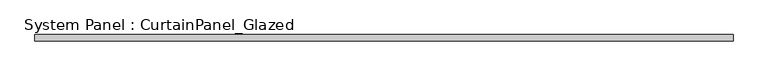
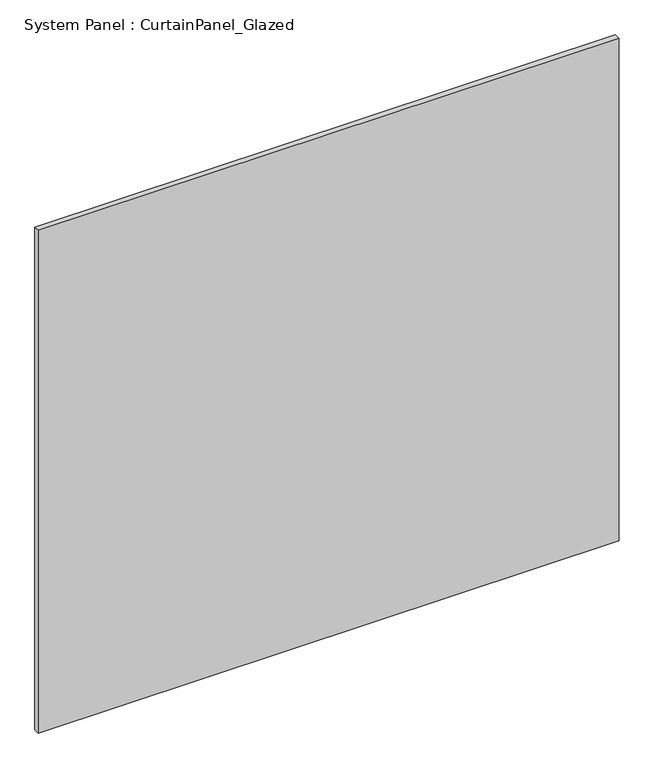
"""IFC4 building model written with IfcOpenShell, lengths in millimetres: plate geometry, System Panel : CurtainPanel_Glazed."""

from ifc_helpers import new_model, si_unit, origin, origin_with_axes, place, context, project, spatial, polyline, outline, extrude, source, transform, mapped, element, save


def system_panel_curtainpanel_glazed_34fb785a(model_context):
    return source(origin(), model_context, "Body", "SweptSolid", [
        extrude(outline(polyline([(1332.3000001, -12.5), (-1332.3000001, -12.5), (-1332.3000001, 12.5), (1332.3000001, 12.5), (1332.3000001, -12.5)])), origin_with_axes(), (0.0, 0.0, 1.0), 2436.7),
    ])


if __name__ == "__main__":
    model = new_model("IFC4")
    model_context = context("Model", 3, world=origin())
    ifc_project = project(units=[si_unit("LENGTHUNIT", "METRE", prefix="MILLI")], contexts=[model_context])
    site = spatial("IfcSite", under=ifc_project)
    building = spatial("IfcBuilding", under=site)
    placement = place(None, origin())
    system_panel_curtainpanel_glazed_shape = system_panel_curtainpanel_glazed_34fb785a(model_context)
    element("IfcPlate", 1, ObjectType="System Panel : CurtainPanel_Glazed", at=placement, inside=building, context=model_context, shape_type="MappedRepresentation", body=[
        mapped(system_panel_curtainpanel_glazed_shape, transform((0.0, 0.0, 0.0), x_axis=(1.0, 0.0, 0.0), y_axis=(0.0, 1.0, 0.0), z_axis=(0.0, 0.0, 1.0))),
    ])
    save(model, "model.ifc")
